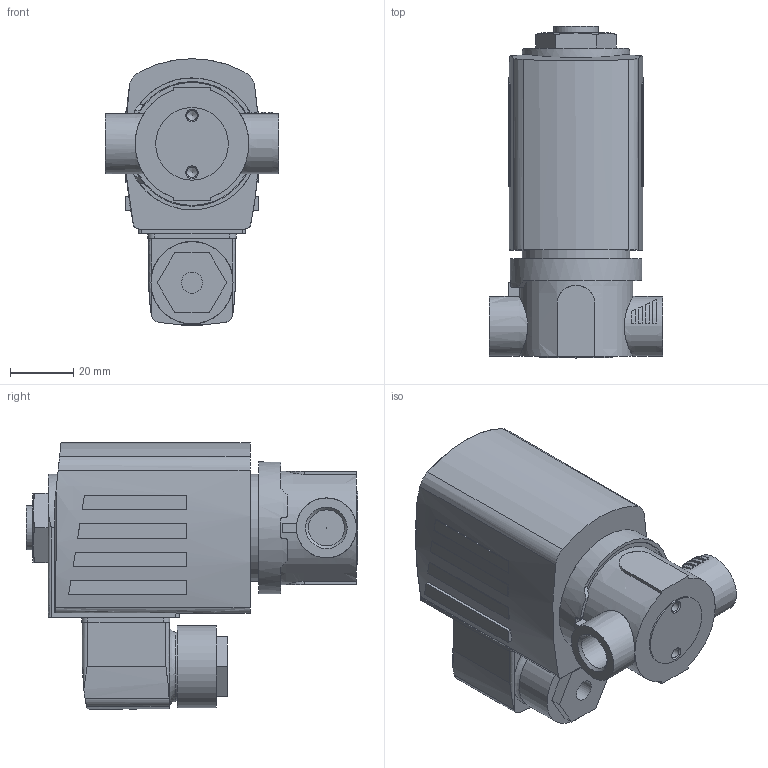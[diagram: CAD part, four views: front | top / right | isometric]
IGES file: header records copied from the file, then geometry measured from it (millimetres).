
Start section: Data from Parasolid IGES Translator 26.0.171, Copyright(c) 2006 Siemens PLM Software. All Rights Reserved.
Global section: file name: 6027-A-1_5-PEEK___FKM-VA-G_1_4-42-024___DC.igs; native system: By Siemens PLM Incorporated; preprocessor: XPlus GENERIC/IGES 26.0.171; author: Noname; organization: Noname; date: 20240329.105316; units: millimetre
Bounding box: 55 x 105.2 x 84.5 mm (x, y, z)
Surface area: 31594.5 mm2 (no closed solid volume)
Topology: 0 solids, 0 shells, 217 faces, 1070 edges, 1039 vertices
Faces by surface type: extrusion 141, revolution 76
